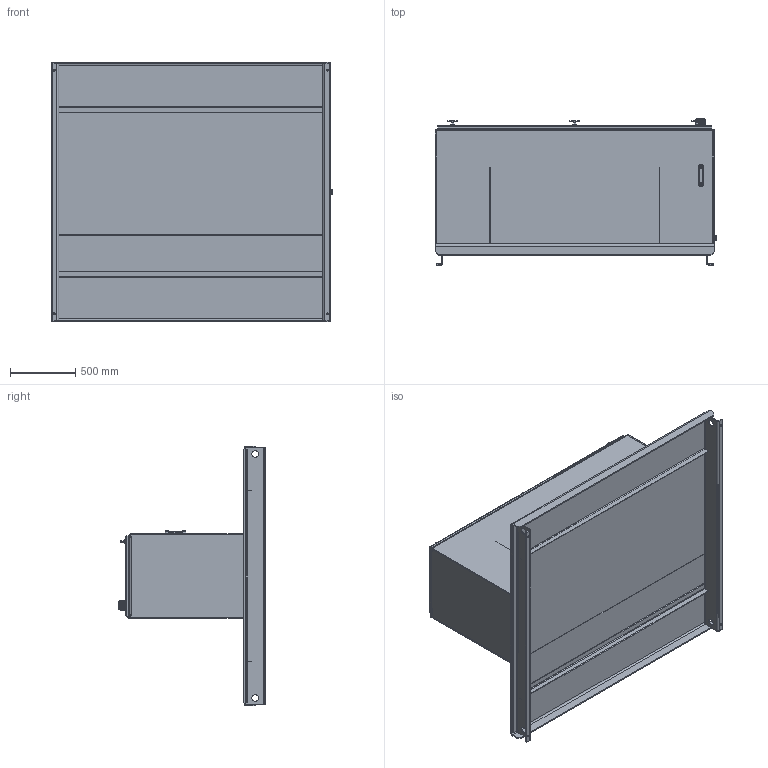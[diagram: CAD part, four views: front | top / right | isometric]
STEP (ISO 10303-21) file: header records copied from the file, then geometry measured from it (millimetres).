
FILE_DESCRIPTION (( 'STEP AP203' ), '1' );
FILE_NAME ('RTP200-HT.STEP', '2015-01-07T19:20:22', ( '' ), ( '' ), 'SwSTEP 2.0', 'SolidWorks 2014', '' );
FILE_SCHEMA (( 'CONFIG_CONTROL_DESIGN' ));
Length unit declared in the file: inch
Products named in the file (1): RTP200-HT
Bounding box: 2152.65 x 1118.42 x 1984.38 mm (x, y, z)
Volume: 80891087.7 mm3; surface area: 26795922.8 mm2
Topology: 63 solids, 241 shells, 3196 faces, 7032 edges, 4271 vertices
Faces by surface type: plane 1342, cylinder 1160, torus 407, bspline 136, cone 96, sphere 55
Entity records: 95773 total; most frequent: CARTESIAN_POINT 24923, DIRECTION 15640, ORIENTED_EDGE 13944, EDGE_CURVE 6972, AXIS2_PLACEMENT_3D 6076, VERTEX_POINT 4253, LINE 3488, VECTOR 3488
